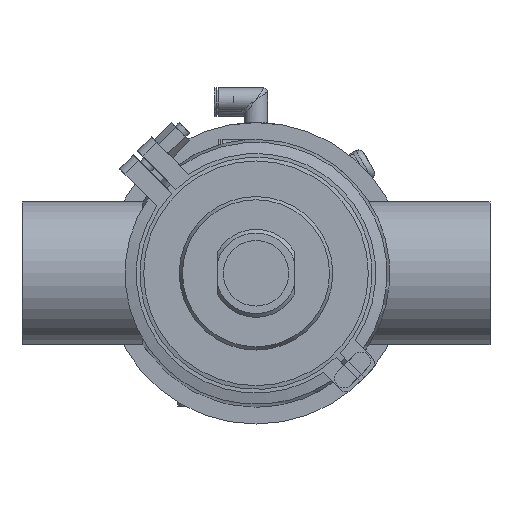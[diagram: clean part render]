
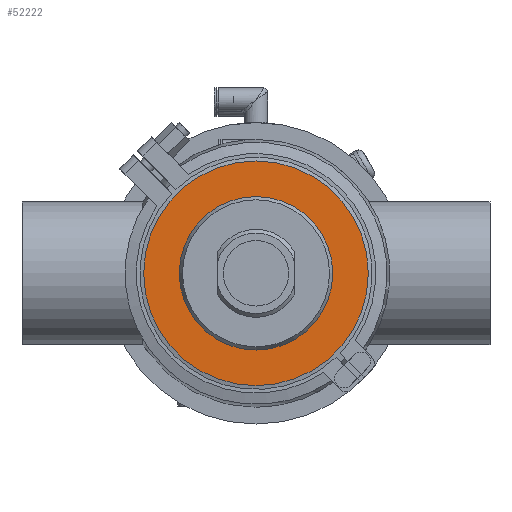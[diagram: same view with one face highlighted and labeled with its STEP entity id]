
A CAD part, front view. The second image highlights one B-rep face of the part: STEP entity #52222.
In plain terms, the highlighted planar face has unit normal (0, -1, 0).
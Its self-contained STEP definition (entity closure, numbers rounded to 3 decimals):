
#2369 = DIRECTION ( 'NONE',  ( 0., 0., 1. ) ) ;
#2864 = CIRCLE ( 'NONE', #61167, 60. ) ;
#7154 = DIRECTION ( 'NONE',  ( 0., 1., 0. ) ) ;
#12915 = CARTESIAN_POINT ( 'NONE',  ( 0., -13., 0. ) ) ;
#13668 = EDGE_LOOP ( 'NONE', ( #35333 ) ) ;
#14341 = VERTEX_POINT ( 'NONE', #19486 ) ;
#14699 = EDGE_LOOP ( 'NONE', ( #43036 ) ) ;
#17354 = DIRECTION ( 'NONE',  ( 0., 0., 1. ) ) ;
#17649 = DIRECTION ( 'NONE',  ( 0., -1., 0. ) ) ;
#19486 = CARTESIAN_POINT ( 'NONE',  ( 0., -13., 41. ) ) ;
#21245 = CARTESIAN_POINT ( 'NONE',  ( 0., -13., 0. ) ) ;
#22481 = FACE_BOUND ( 'NONE', #13668, .T. ) ;
#26923 = PLANE ( 'NONE',  #54245 ) ;
#27487 = CARTESIAN_POINT ( 'NONE',  ( 0., -13., 60. ) ) ;
#29675 = EDGE_CURVE ( 'NONE', #51807, #51807, #2864, .T. ) ;
#34791 = EDGE_CURVE ( 'NONE', #14341, #14341, #54445, .T. ) ;
#35333 = ORIENTED_EDGE ( 'NONE', *, *, #34791, .T. ) ;
#40676 = DIRECTION ( 'NONE',  ( 0., 1., 0. ) ) ;
#41265 = DIRECTION ( 'NONE',  ( 0., 0., -1. ) ) ;
#43036 = ORIENTED_EDGE ( 'NONE', *, *, #29675, .F. ) ;
#44175 = AXIS2_PLACEMENT_3D ( 'NONE', #12915, #7154, #2369 ) ;
#46108 = CARTESIAN_POINT ( 'NONE',  ( -60., -13., 0. ) ) ;
#51807 = VERTEX_POINT ( 'NONE', #27487 ) ;
#52222 = ADVANCED_FACE ( 'NONE', ( #22481, #62179 ), #26923, .T. ) ;
#54245 = AXIS2_PLACEMENT_3D ( 'NONE', #46108, #17649, #41265 ) ;
#54445 = CIRCLE ( 'NONE', #44175, 41. ) ;
#61167 = AXIS2_PLACEMENT_3D ( 'NONE', #21245, #40676, #17354 ) ;
#62179 = FACE_OUTER_BOUND ( 'NONE', #14699, .T. ) ;
